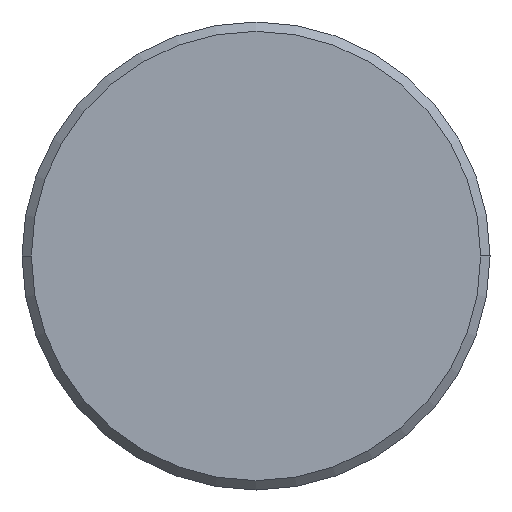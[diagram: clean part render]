
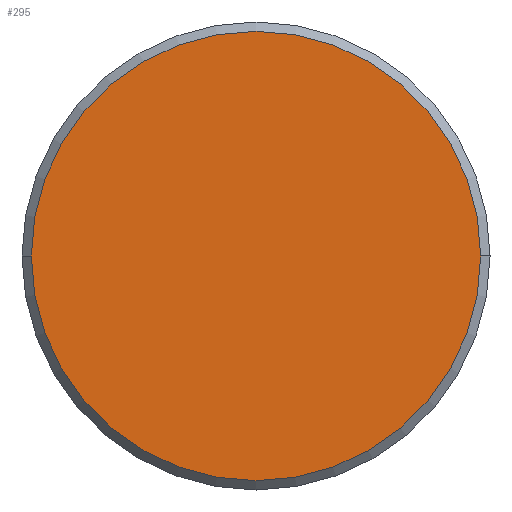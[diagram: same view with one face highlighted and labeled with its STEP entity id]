
A CAD part, left-side view. The second image highlights one B-rep face of the part: STEP entity #295.
In plain terms, the highlighted planar face has unit normal (-1, 0, 0).
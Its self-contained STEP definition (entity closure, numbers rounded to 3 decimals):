
#16 = ORIENTED_EDGE ( 'NONE', *, *, #282, .F. ) ;
#17 = DIRECTION ( 'NONE',  ( 1., 0., 0. ) ) ;
#79 = PLANE ( 'NONE',  #405 ) ;
#100 = VERTEX_POINT ( 'NONE', #155 ) ;
#106 = DIRECTION ( 'NONE',  ( 1., 0., 0. ) ) ;
#134 = VERTEX_POINT ( 'NONE', #315 ) ;
#138 = DIRECTION ( 'NONE',  ( -1., 0., 0. ) ) ;
#146 = ORIENTED_EDGE ( 'NONE', *, *, #376, .F. ) ;
#155 = CARTESIAN_POINT ( 'NONE',  ( -75., 12., 0. ) ) ;
#181 = CIRCLE ( 'NONE', #330, 12. ) ;
#183 = CIRCLE ( 'NONE', #214, 12. ) ;
#209 = CARTESIAN_POINT ( 'NONE',  ( -75., 0., 0. ) ) ;
#214 = AXIS2_PLACEMENT_3D ( 'NONE', #209, #17, #241 ) ;
#241 = DIRECTION ( 'NONE',  ( 0., 1., 0. ) ) ;
#266 = FACE_OUTER_BOUND ( 'NONE', #275, .T. ) ;
#269 = CARTESIAN_POINT ( 'NONE',  ( -75., 0., 0. ) ) ;
#275 = EDGE_LOOP ( 'NONE', ( #16, #146 ) ) ;
#282 = EDGE_CURVE ( 'NONE', #100, #134, #181, .T. ) ;
#295 = ADVANCED_FACE ( 'NONE', ( #266 ), #79, .T. ) ;
#302 = CARTESIAN_POINT ( 'NONE',  ( -75., 0., 0. ) ) ;
#315 = CARTESIAN_POINT ( 'NONE',  ( -75., -12., 0. ) ) ;
#330 = AXIS2_PLACEMENT_3D ( 'NONE', #302, #106, #335 ) ;
#335 = DIRECTION ( 'NONE',  ( 0., 1., 0. ) ) ;
#373 = DIRECTION ( 'NONE',  ( 0., -1., 0. ) ) ;
#376 = EDGE_CURVE ( 'NONE', #134, #100, #183, .T. ) ;
#405 = AXIS2_PLACEMENT_3D ( 'NONE', #269, #138, #373 ) ;
